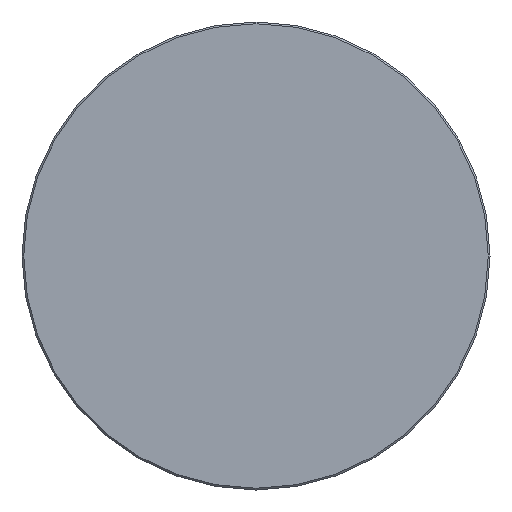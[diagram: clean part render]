
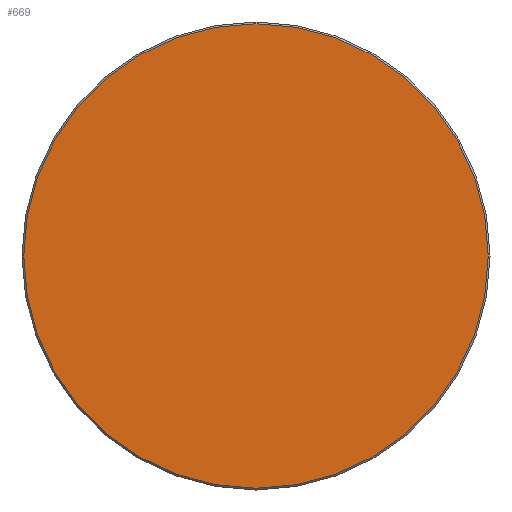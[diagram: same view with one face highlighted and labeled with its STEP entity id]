
A CAD part, left-side view. The second image highlights one B-rep face of the part: STEP entity #669.
In plain terms, the highlighted planar face has unit normal (-1, 0, 0).
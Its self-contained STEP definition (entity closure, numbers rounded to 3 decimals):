
#38 = DIRECTION ( 'NONE',  ( 1., 0., 0. ) ) ;
#50 = DIRECTION ( 'NONE',  ( 0., 0., -1. ) ) ;
#144 = AXIS2_PLACEMENT_3D ( 'NONE', #719, #916, #998 ) ;
#146 = PLANE ( 'NONE',  #427 ) ;
#177 = VERTEX_POINT ( 'NONE', #247 ) ;
#247 = CARTESIAN_POINT ( 'NONE',  ( 0., 0., -39.7 ) ) ;
#342 = ORIENTED_EDGE ( 'NONE', *, *, #1163, .T. ) ;
#403 = CARTESIAN_POINT ( 'NONE',  ( 0., 0., 0. ) ) ;
#427 = AXIS2_PLACEMENT_3D ( 'NONE', #403, #38, #50 ) ;
#587 = AXIS2_PLACEMENT_3D ( 'NONE', #1188, #718, #822 ) ;
#669 = ADVANCED_FACE ( 'NONE', ( #1080 ), #146, .F. ) ;
#676 = VERTEX_POINT ( 'NONE', #889 ) ;
#718 = DIRECTION ( 'NONE',  ( -1., 0., 0. ) ) ;
#719 = CARTESIAN_POINT ( 'NONE',  ( 0., 0., 0. ) ) ;
#754 = CIRCLE ( 'NONE', #587, 39.7 ) ;
#818 = EDGE_LOOP ( 'NONE', ( #867, #342 ) ) ;
#822 = DIRECTION ( 'NONE',  ( 0., 0., 1. ) ) ;
#867 = ORIENTED_EDGE ( 'NONE', *, *, #868, .T. ) ;
#868 = EDGE_CURVE ( 'NONE', #177, #676, #754, .T. ) ;
#889 = CARTESIAN_POINT ( 'NONE',  ( 0., 0., 39.7 ) ) ;
#916 = DIRECTION ( 'NONE',  ( -1., 0., 0. ) ) ;
#998 = DIRECTION ( 'NONE',  ( 0., 0., 1. ) ) ;
#1040 = CIRCLE ( 'NONE', #144, 39.7 ) ;
#1080 = FACE_OUTER_BOUND ( 'NONE', #818, .T. ) ;
#1163 = EDGE_CURVE ( 'NONE', #676, #177, #1040, .T. ) ;
#1188 = CARTESIAN_POINT ( 'NONE',  ( 0., 0., 0. ) ) ;
